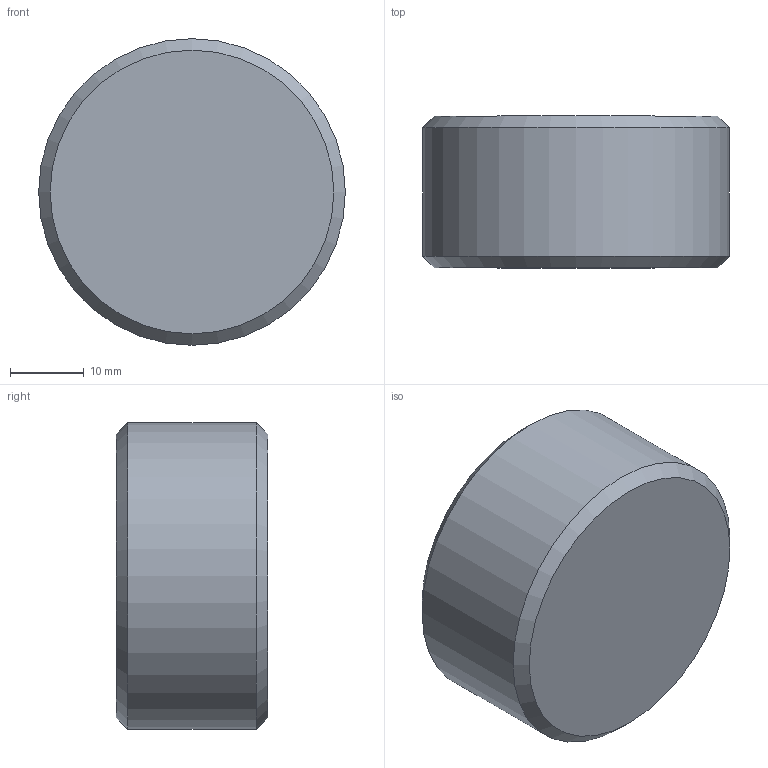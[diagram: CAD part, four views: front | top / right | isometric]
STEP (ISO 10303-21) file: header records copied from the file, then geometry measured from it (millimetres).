
FILE_DESCRIPTION(/* description */ (''),/* implementation_level */ '2;1');
FILE_NAME(/* name */ 'C:/Users/drich/Desktop/cad/Plugs/NPT Pipe Plugs/Stainless/BD-1-1_4 v1.step',/* time_stamp */ '2020-01-10T11:14:58-06:00',/* author */ (''),/* organization */ (''),/* preprocessor_version */ 'ST-DEVELOPER v18',/* originating_system */ 'Autodesk Translation Framework v8.12.0.6',/* authorisation */ '');
FILE_SCHEMA (('AUTOMOTIVE_DESIGN { 1 0 10303 214 3 1 1 }'));
Length unit declared in the file: inch
Products named in the file (1): BD-1-1_4
Bounding box: 41.73 x 20.62 x 41.73 mm (x, y, z)
Volume: 24243.1 mm3; surface area: 5899.5 mm2
Topology: 1 solids, 1 shells, 13 faces, 35 edges, 25 vertices
Faces by surface type: plane 9, cone 3, cylinder 1
Full cylindrical faces by diameter (mm): 41.73 x1
Entity records: 446 total; most frequent: CARTESIAN_POINT 98, ORIENTED_EDGE 70, DIRECTION 58, EDGE_CURVE 35, VERTEX_POINT 25, AXIS2_PLACEMENT_3D 21, LINE 16, VECTOR 16
